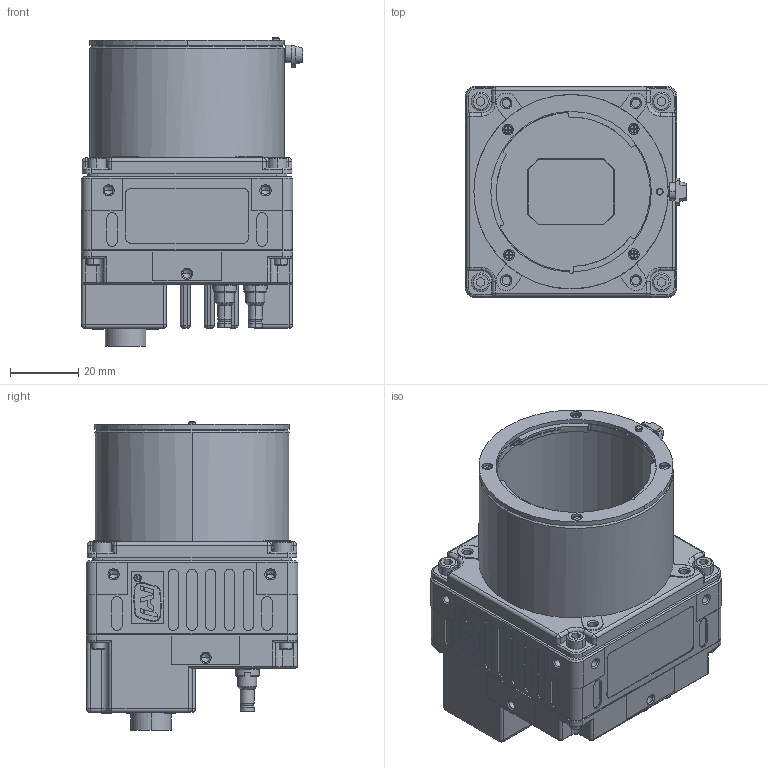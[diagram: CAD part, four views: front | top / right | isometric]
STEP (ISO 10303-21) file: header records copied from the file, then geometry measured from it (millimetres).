
FILE_DESCRIPTION(('OneSpaceDesigner STEP Export'),'2;1');
FILE_NAME('SP-20000M-CXP2.stp','2013-07-09T11:22:31',(''),(''),'OneSpace Designer STEP processor for AP214 (Solid Model)','OneSpace Modeling 15.00A 14-Mar-2007 (C) CoCreate Software GmbH','');
FILE_SCHEMA(('AUTOMOTIVE_DESIGN { 1 0 10303 214 1 1 1 1 }'));
Products named in the file (2): SP-20000M-CXP2
Assembly tree (1 placements, depth 2):
  SP-20000M-CXP2
    SP-20000M-CXP2
Bounding box: 64.9 x 62 x 90.6 mm (x, y, z)
Volume: 74900.1 mm3; surface area: 60822.3 mm2
Topology: 1 solids, 31 shells, 3295 faces, 8597 edges, 5497 vertices
Faces by surface type: plane 2117, cylinder 808, cone 264, torus 63, sphere 37, bspline 6
Entity records: 94616 total; most frequent: CARTESIAN_POINT 17416, ORIENTED_EDGE 17008, DIRECTION 14307, EDGE_CURVE 8500, VECTOR 6245, LINE 6245, VERTEX_POINT 5497, AXIS2_PLACEMENT_3D 4031
